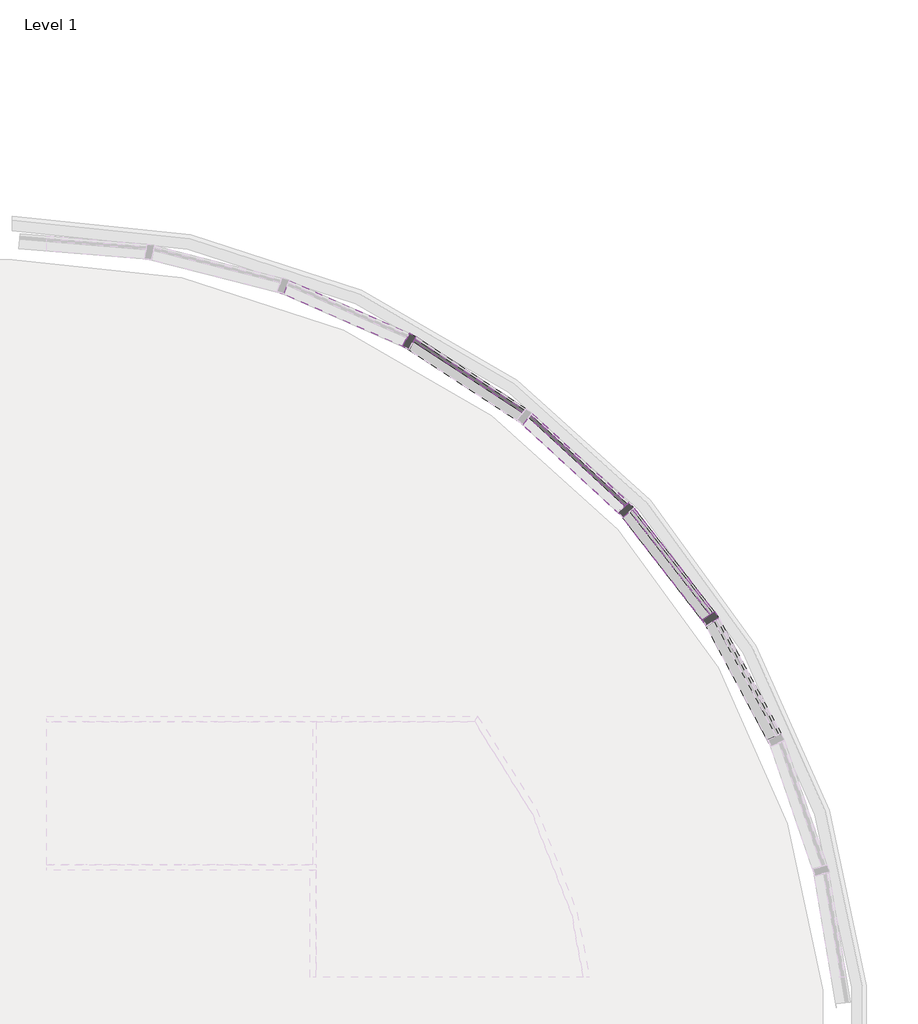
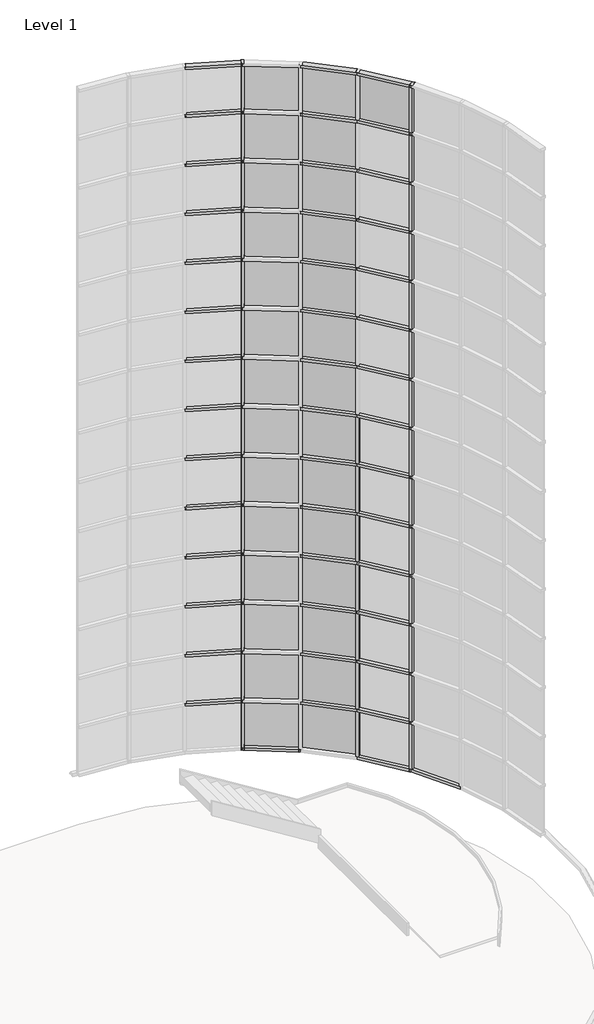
# One storey, part 13 of 20: 80 members, 29 plates.
"""IFC4 building model written with IfcOpenShell, lengths in millimetres."""

from ifc_helpers import new_model, si_unit, origin, place, context, project, spatial, transform, mapped, element, save
from components import member_68fe8548, member_f830fa99, member_935f61b8, system_panel_glazed_da602fa6, system_panel_glazed_77fd207e

model = new_model("IFC4")

# Units and contexts
model_context = context("Model", 3, world=origin())
ifc_project = project(units=[si_unit("LENGTHUNIT", "METRE", prefix="MILLI")], contexts=[model_context])

# Site, building, storey
site = spatial("IfcSite", under=ifc_project)
building = spatial("IfcBuilding", under=site)
storey = spatial("IfcBuildingStorey", under=building, Name="Level 1", Elevation=0.0)

# Members
placement = place(None, origin())
member_shape = member_68fe8548(model_context)
element("IfcMember", 1, ObjectType="Rectangular Mullion : 2.5\" x 5\" rectangular", at=placement, inside=storey, context=model_context, shape_type="MappedRepresentation", body=[
    mapped(member_shape, transform((21306.6406628, 3785.4957758, 17983.2), x_axis=(0.0, 0.0, 1.0), y_axis=(-0.40169542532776, -0.9157733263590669, 0.0), z_axis=(0.9157733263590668, -0.4016954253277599, 0.0))),
])
element("IfcMember", 2, ObjectType="Rectangular Mullion : 2.5\" x 5\" rectangular", at=placement, inside=storey, context=model_context, shape_type="MappedRepresentation", body=[
    mapped(member_shape, transform((23166.898542, 2350.7981932, 17983.2), x_axis=(0.0, 0.0, 1.0), y_axis=(-0.6772815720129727, -0.7357239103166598, 0.0), z_axis=(0.7357239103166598, -0.6772815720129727, 0.0))),
])
element("IfcMember", 3, ObjectType="Rectangular Mullion : 2.5\" x 5\" rectangular", at=placement, inside=storey, context=model_context, shape_type="MappedRepresentation", body=[
    mapped(member_shape, transform((23894.9537437, 1423.9011049, 17983.2), x_axis=(0.0, 0.0, 1.0), y_axis=(-0.7891405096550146, -0.6142127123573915, 0.0), z_axis=(0.6142127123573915, -0.7891405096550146, 0.0))),
])
element("IfcMember", 4, ObjectType="Rectangular Mullion : 2.5\" x 5\" rectangular", at=placement, inside=storey, context=model_context, shape_type="MappedRepresentation", body=[
    mapped(member_shape, transform((21362.2965016, 3755.376342, 1092.2), x_axis=(0.0, 0.0, -1.0), y_axis=(-0.5469481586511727, -0.8371664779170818, 0.0), z_axis=(-0.8371664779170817, 0.5469481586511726, 0.0))),
])
element("IfcMember", 5, ObjectType="Rectangular Mullion : 2.5\" x 5\" rectangular", at=placement, inside=storey, context=model_context, shape_type="MappedRepresentation", body=[
    mapped(member_shape, transform((23209.7590298, 2304.2392921, 1092.2), x_axis=(0.0, 0.0, -1.0), y_axis=(-0.789140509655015, -0.614212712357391, 0.0), z_axis=(-0.614212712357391, 0.789140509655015, 0.0))),
])
element("IfcMember", 6, ObjectType="Rectangular Mullion : 2.5\" x 5\" rectangular", at=placement, inside=storey, context=model_context, shape_type="MappedRepresentation", body=[
    mapped(member_shape, transform((23929.566327, 1370.9226021, 1092.2), x_axis=(0.0, 0.0, -1.0), y_axis=(-0.8794737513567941, -0.47594739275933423, 0.0), z_axis=(-0.47594739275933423, 0.8794737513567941, 0.0))),
])
member_2_shape = member_f830fa99(model_context)
element("IfcMember", 7, ObjectType="Rectangular Mullion : 2.5\" x 5\" rectangular", at=placement, inside=storey, context=model_context, shape_type="MappedRepresentation", body=[
    mapped(member_2_shape, transform((21306.6406628, 3785.4957758, 2298.7), x_axis=(0.0, 0.0, 1.0), y_axis=(-0.40169542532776, -0.9157733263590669, 0.0), z_axis=(0.9157733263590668, -0.4016954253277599, 0.0))),
])
element("IfcMember", 8, ObjectType="Rectangular Mullion : 2.5\" x 5\" rectangular", at=placement, inside=storey, context=model_context, shape_type="MappedRepresentation", body=[
    mapped(member_2_shape, transform((23166.898542, 2350.7981932, 2298.7), x_axis=(0.0, 0.0, 1.0), y_axis=(-0.6772815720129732, -0.7357239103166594, 0.0), z_axis=(0.7357239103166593, -0.6772815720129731, 0.0))),
])
element("IfcMember", 9, ObjectType="Rectangular Mullion : 2.5\" x 5\" rectangular", at=placement, inside=storey, context=model_context, shape_type="MappedRepresentation", body=[
    mapped(member_2_shape, transform((23894.9537437, 1423.9011049, 2298.7), x_axis=(0.0, 0.0, 1.0), y_axis=(-0.7891405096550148, -0.6142127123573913, 0.0), z_axis=(0.6142127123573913, -0.7891405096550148, 0.0))),
])
element("IfcMember", 10, ObjectType="Rectangular Mullion : 2.5\" x 5\" rectangular", at=placement, inside=storey, context=model_context, shape_type="MappedRepresentation", body=[
    mapped(member_2_shape, transform((21306.6406628, 3785.4957758, 3505.2), x_axis=(0.0, 0.0, 1.0), y_axis=(-0.40169542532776, -0.9157733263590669, 0.0), z_axis=(0.9157733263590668, -0.4016954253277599, 0.0))),
])
element("IfcMember", 11, ObjectType="Rectangular Mullion : 2.5\" x 5\" rectangular", at=placement, inside=storey, context=model_context, shape_type="MappedRepresentation", body=[
    mapped(member_2_shape, transform((23166.898542, 2350.7981932, 3505.2), x_axis=(0.0, 0.0, 1.0), y_axis=(-0.6772815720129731, -0.7357239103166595, 0.0), z_axis=(0.7357239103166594, -0.677281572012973, 0.0))),
])
element("IfcMember", 12, ObjectType="Rectangular Mullion : 2.5\" x 5\" rectangular", at=placement, inside=storey, context=model_context, shape_type="MappedRepresentation", body=[
    mapped(member_2_shape, transform((23894.9537437, 1423.9011049, 3505.2), x_axis=(0.0, 0.0, 1.0), y_axis=(-0.7891405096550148, -0.6142127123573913, 0.0), z_axis=(0.6142127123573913, -0.7891405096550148, 0.0))),
])
element("IfcMember", 13, ObjectType="Rectangular Mullion : 2.5\" x 5\" rectangular", at=placement, inside=storey, context=model_context, shape_type="MappedRepresentation", body=[
    mapped(member_2_shape, transform((21306.6406628, 3785.4957758, 4711.7), x_axis=(0.0, 0.0, 1.0), y_axis=(-0.40169542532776, -0.9157733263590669, 0.0), z_axis=(0.9157733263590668, -0.4016954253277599, 0.0))),
])
element("IfcMember", 14, ObjectType="Rectangular Mullion : 2.5\" x 5\" rectangular", at=placement, inside=storey, context=model_context, shape_type="MappedRepresentation", body=[
    mapped(member_2_shape, transform((23166.898542, 2350.7981932, 4711.7), x_axis=(0.0, 0.0, 1.0), y_axis=(-0.6772815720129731, -0.7357239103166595, 0.0), z_axis=(0.7357239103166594, -0.677281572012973, 0.0))),
])
element("IfcMember", 15, ObjectType="Rectangular Mullion : 2.5\" x 5\" rectangular", at=placement, inside=storey, context=model_context, shape_type="MappedRepresentation", body=[
    mapped(member_2_shape, transform((23894.9537437, 1423.9011049, 4711.7), x_axis=(0.0, 0.0, 1.0), y_axis=(-0.7891405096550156, -0.6142127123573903, 0.0), z_axis=(0.6142127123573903, -0.7891405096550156, 0.0))),
])
element("IfcMember", 16, ObjectType="Rectangular Mullion : 2.5\" x 5\" rectangular", at=placement, inside=storey, context=model_context, shape_type="MappedRepresentation", body=[
    mapped(member_2_shape, transform((21306.6406628, 3785.4957758, 5918.2), x_axis=(0.0, 0.0, 1.0), y_axis=(-0.40169542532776, -0.9157733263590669, 0.0), z_axis=(0.9157733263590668, -0.4016954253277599, 0.0))),
])
element("IfcMember", 17, ObjectType="Rectangular Mullion : 2.5\" x 5\" rectangular", at=placement, inside=storey, context=model_context, shape_type="MappedRepresentation", body=[
    mapped(member_2_shape, transform((23166.898542, 2350.7981932, 5918.2), x_axis=(0.0, 0.0, 1.0), y_axis=(-0.6772815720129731, -0.7357239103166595, 0.0), z_axis=(0.7357239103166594, -0.677281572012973, 0.0))),
])
element("IfcMember", 18, ObjectType="Rectangular Mullion : 2.5\" x 5\" rectangular", at=placement, inside=storey, context=model_context, shape_type="MappedRepresentation", body=[
    mapped(member_2_shape, transform((23894.9537437, 1423.9011049, 5918.2), x_axis=(0.0, 0.0, 1.0), y_axis=(-0.7891405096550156, -0.6142127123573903, 0.0), z_axis=(0.6142127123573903, -0.7891405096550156, 0.0))),
])
element("IfcMember", 19, ObjectType="Rectangular Mullion : 2.5\" x 5\" rectangular", at=placement, inside=storey, context=model_context, shape_type="MappedRepresentation", body=[
    mapped(member_2_shape, transform((21306.6406628, 3785.4957758, 7124.7), x_axis=(0.0, 0.0, 1.0), y_axis=(-0.40169542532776, -0.9157733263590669, 0.0), z_axis=(0.9157733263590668, -0.4016954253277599, 0.0))),
])
element("IfcMember", 20, ObjectType="Rectangular Mullion : 2.5\" x 5\" rectangular", at=placement, inside=storey, context=model_context, shape_type="MappedRepresentation", body=[
    mapped(member_2_shape, transform((23166.898542, 2350.7981932, 7124.7), x_axis=(0.0, 0.0, 1.0), y_axis=(-0.6772815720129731, -0.7357239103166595, 0.0), z_axis=(0.7357239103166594, -0.677281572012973, 0.0))),
])
element("IfcMember", 21, ObjectType="Rectangular Mullion : 2.5\" x 5\" rectangular", at=placement, inside=storey, context=model_context, shape_type="MappedRepresentation", body=[
    mapped(member_2_shape, transform((23894.9537437, 1423.9011049, 7124.7), x_axis=(0.0, 0.0, 1.0), y_axis=(-0.7891405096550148, -0.6142127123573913, 0.0), z_axis=(0.6142127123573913, -0.7891405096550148, 0.0))),
])
element("IfcMember", 22, ObjectType="Rectangular Mullion : 2.5\" x 5\" rectangular", at=placement, inside=storey, context=model_context, shape_type="MappedRepresentation", body=[
    mapped(member_2_shape, transform((21306.6406628, 3785.4957758, 8331.2), x_axis=(0.0, 0.0, 1.0), y_axis=(-0.40169542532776, -0.9157733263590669, 0.0), z_axis=(0.9157733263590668, -0.4016954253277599, 0.0))),
])
element("IfcMember", 23, ObjectType="Rectangular Mullion : 2.5\" x 5\" rectangular", at=placement, inside=storey, context=model_context, shape_type="MappedRepresentation", body=[
    mapped(member_2_shape, transform((23166.898542, 2350.7981932, 8331.2), x_axis=(0.0, 0.0, 1.0), y_axis=(-0.6772815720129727, -0.7357239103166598, 0.0), z_axis=(0.7357239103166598, -0.6772815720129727, 0.0))),
])
element("IfcMember", 24, ObjectType="Rectangular Mullion : 2.5\" x 5\" rectangular", at=placement, inside=storey, context=model_context, shape_type="MappedRepresentation", body=[
    mapped(member_2_shape, transform((23894.9537437, 1423.9011049, 8331.2), x_axis=(0.0, 0.0, 1.0), y_axis=(-0.7891405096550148, -0.6142127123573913, 0.0), z_axis=(0.6142127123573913, -0.7891405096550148, 0.0))),
])
element("IfcMember", 25, ObjectType="Rectangular Mullion : 2.5\" x 5\" rectangular", at=placement, inside=storey, context=model_context, shape_type="MappedRepresentation", body=[
    mapped(member_2_shape, transform((21306.6406628, 3785.4957758, 9537.7), x_axis=(0.0, 0.0, 1.0), y_axis=(-0.40169542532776, -0.9157733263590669, 0.0), z_axis=(0.9157733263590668, -0.4016954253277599, 0.0))),
])
element("IfcMember", 26, ObjectType="Rectangular Mullion : 2.5\" x 5\" rectangular", at=placement, inside=storey, context=model_context, shape_type="MappedRepresentation", body=[
    mapped(member_2_shape, transform((23166.898542, 2350.7981932, 9537.7), x_axis=(0.0, 0.0, 1.0), y_axis=(-0.6772815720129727, -0.7357239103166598, 0.0), z_axis=(0.7357239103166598, -0.6772815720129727, 0.0))),
])
element("IfcMember", 27, ObjectType="Rectangular Mullion : 2.5\" x 5\" rectangular", at=placement, inside=storey, context=model_context, shape_type="MappedRepresentation", body=[
    mapped(member_2_shape, transform((23894.9537437, 1423.9011049, 9537.7), x_axis=(0.0, 0.0, 1.0), y_axis=(-0.7891405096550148, -0.6142127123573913, 0.0), z_axis=(0.6142127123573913, -0.7891405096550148, 0.0))),
])
element("IfcMember", 28, ObjectType="Rectangular Mullion : 2.5\" x 5\" rectangular", at=placement, inside=storey, context=model_context, shape_type="MappedRepresentation", body=[
    mapped(member_2_shape, transform((21306.6406628, 3785.4957758, 10744.2), x_axis=(0.0, 0.0, 1.0), y_axis=(-0.40169542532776, -0.9157733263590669, 0.0), z_axis=(0.9157733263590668, -0.4016954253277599, 0.0))),
])
element("IfcMember", 29, ObjectType="Rectangular Mullion : 2.5\" x 5\" rectangular", at=placement, inside=storey, context=model_context, shape_type="MappedRepresentation", body=[
    mapped(member_2_shape, transform((23166.898542, 2350.7981932, 10744.2), x_axis=(0.0, 0.0, 1.0), y_axis=(-0.677281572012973, -0.7357239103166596, 0.0), z_axis=(0.7357239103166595, -0.6772815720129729, 0.0))),
])
element("IfcMember", 30, ObjectType="Rectangular Mullion : 2.5\" x 5\" rectangular", at=placement, inside=storey, context=model_context, shape_type="MappedRepresentation", body=[
    mapped(member_2_shape, transform((23894.9537437, 1423.9011049, 10744.2), x_axis=(0.0, 0.0, 1.0), y_axis=(-0.7891405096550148, -0.6142127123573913, 0.0), z_axis=(0.6142127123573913, -0.7891405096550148, 0.0))),
])
element("IfcMember", 31, ObjectType="Rectangular Mullion : 2.5\" x 5\" rectangular", at=placement, inside=storey, context=model_context, shape_type="MappedRepresentation", body=[
    mapped(member_2_shape, transform((21306.6406628, 3785.4957758, 11950.7), x_axis=(0.0, 0.0, 1.0), y_axis=(-0.40169542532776, -0.9157733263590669, 0.0), z_axis=(0.9157733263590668, -0.4016954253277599, 0.0))),
])
element("IfcMember", 32, ObjectType="Rectangular Mullion : 2.5\" x 5\" rectangular", at=placement, inside=storey, context=model_context, shape_type="MappedRepresentation", body=[
    mapped(member_2_shape, transform((23166.898542, 2350.7981932, 11950.7), x_axis=(0.0, 0.0, 1.0), y_axis=(-0.6772815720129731, -0.7357239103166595, 0.0), z_axis=(0.7357239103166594, -0.677281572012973, 0.0))),
])
element("IfcMember", 33, ObjectType="Rectangular Mullion : 2.5\" x 5\" rectangular", at=placement, inside=storey, context=model_context, shape_type="MappedRepresentation", body=[
    mapped(member_2_shape, transform((23894.9537437, 1423.9011049, 11950.7), x_axis=(0.0, 0.0, 1.0), y_axis=(-0.7891405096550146, -0.6142127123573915, 0.0), z_axis=(0.6142127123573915, -0.7891405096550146, 0.0))),
])
element("IfcMember", 34, ObjectType="Rectangular Mullion : 2.5\" x 5\" rectangular", at=placement, inside=storey, context=model_context, shape_type="MappedRepresentation", body=[
    mapped(member_2_shape, transform((21306.6406628, 3785.4957758, 13157.2), x_axis=(0.0, 0.0, 1.0), y_axis=(-0.40169542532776, -0.9157733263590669, 0.0), z_axis=(0.9157733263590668, -0.4016954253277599, 0.0))),
])
element("IfcMember", 35, ObjectType="Rectangular Mullion : 2.5\" x 5\" rectangular", at=placement, inside=storey, context=model_context, shape_type="MappedRepresentation", body=[
    mapped(member_2_shape, transform((23166.898542, 2350.7981932, 13157.2), x_axis=(0.0, 0.0, 1.0), y_axis=(-0.6772815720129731, -0.7357239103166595, 0.0), z_axis=(0.7357239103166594, -0.677281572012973, 0.0))),
])
element("IfcMember", 36, ObjectType="Rectangular Mullion : 2.5\" x 5\" rectangular", at=placement, inside=storey, context=model_context, shape_type="MappedRepresentation", body=[
    mapped(member_2_shape, transform((23894.9537437, 1423.9011049, 13157.2), x_axis=(0.0, 0.0, 1.0), y_axis=(-0.7891405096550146, -0.6142127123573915, 0.0), z_axis=(0.6142127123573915, -0.7891405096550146, 0.0))),
])
element("IfcMember", 37, ObjectType="Rectangular Mullion : 2.5\" x 5\" rectangular", at=placement, inside=storey, context=model_context, shape_type="MappedRepresentation", body=[
    mapped(member_2_shape, transform((21306.6406628, 3785.4957758, 14363.7), x_axis=(0.0, 0.0, 1.0), y_axis=(-0.40169542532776, -0.9157733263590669, 0.0), z_axis=(0.9157733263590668, -0.4016954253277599, 0.0))),
])
element("IfcMember", 38, ObjectType="Rectangular Mullion : 2.5\" x 5\" rectangular", at=placement, inside=storey, context=model_context, shape_type="MappedRepresentation", body=[
    mapped(member_2_shape, transform((23166.898542, 2350.7981932, 14363.7), x_axis=(0.0, 0.0, 1.0), y_axis=(-0.6772815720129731, -0.7357239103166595, 0.0), z_axis=(0.7357239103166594, -0.677281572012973, 0.0))),
])
element("IfcMember", 39, ObjectType="Rectangular Mullion : 2.5\" x 5\" rectangular", at=placement, inside=storey, context=model_context, shape_type="MappedRepresentation", body=[
    mapped(member_2_shape, transform((23894.9537437, 1423.9011049, 14363.7), x_axis=(0.0, 0.0, 1.0), y_axis=(-0.7891405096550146, -0.6142127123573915, 0.0), z_axis=(0.6142127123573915, -0.7891405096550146, 0.0))),
])
element("IfcMember", 40, ObjectType="Rectangular Mullion : 2.5\" x 5\" rectangular", at=placement, inside=storey, context=model_context, shape_type="MappedRepresentation", body=[
    mapped(member_2_shape, transform((21306.6406628, 3785.4957758, 15570.2), x_axis=(0.0, 0.0, 1.0), y_axis=(-0.40169542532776, -0.9157733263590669, 0.0), z_axis=(0.9157733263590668, -0.4016954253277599, 0.0))),
])
element("IfcMember", 41, ObjectType="Rectangular Mullion : 2.5\" x 5\" rectangular", at=placement, inside=storey, context=model_context, shape_type="MappedRepresentation", body=[
    mapped(member_2_shape, transform((23166.898542, 2350.7981932, 15570.2), x_axis=(0.0, 0.0, 1.0), y_axis=(-0.6772815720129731, -0.7357239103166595, 0.0), z_axis=(0.7357239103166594, -0.677281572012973, 0.0))),
])
element("IfcMember", 42, ObjectType="Rectangular Mullion : 2.5\" x 5\" rectangular", at=placement, inside=storey, context=model_context, shape_type="MappedRepresentation", body=[
    mapped(member_2_shape, transform((23894.9537437, 1423.9011049, 15570.2), x_axis=(0.0, 0.0, 1.0), y_axis=(-0.7891405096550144, -0.6142127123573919, 0.0), z_axis=(0.6142127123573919, -0.7891405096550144, 0.0))),
])
element("IfcMember", 43, ObjectType="Rectangular Mullion : 2.5\" x 5\" rectangular", at=placement, inside=storey, context=model_context, shape_type="MappedRepresentation", body=[
    mapped(member_2_shape, transform((21306.6406628, 3785.4957758, 16776.7), x_axis=(0.0, 0.0, 1.0), y_axis=(-0.40169542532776, -0.9157733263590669, 0.0), z_axis=(0.9157733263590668, -0.4016954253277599, 0.0))),
])
element("IfcMember", 44, ObjectType="Rectangular Mullion : 2.5\" x 5\" rectangular", at=placement, inside=storey, context=model_context, shape_type="MappedRepresentation", body=[
    mapped(member_2_shape, transform((23166.898542, 2350.7981932, 16776.7), x_axis=(0.0, 0.0, 1.0), y_axis=(-0.6772815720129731, -0.7357239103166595, 0.0), z_axis=(0.7357239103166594, -0.677281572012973, 0.0))),
])
element("IfcMember", 45, ObjectType="Rectangular Mullion : 2.5\" x 5\" rectangular", at=placement, inside=storey, context=model_context, shape_type="MappedRepresentation", body=[
    mapped(member_2_shape, transform((23894.9537437, 1423.9011049, 16776.7), x_axis=(0.0, 0.0, 1.0), y_axis=(-0.7891405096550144, -0.6142127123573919, 0.0), z_axis=(0.6142127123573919, -0.7891405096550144, 0.0))),
])
member_3_shape = member_935f61b8(model_context)
element("IfcMember", 46, ObjectType="Rectangular Mullion : 2.5\" x 5\" rectangular", at=placement, inside=storey, context=model_context, shape_type="MappedRepresentation", body=[
    mapped(member_3_shape, transform((21335.7164659, 3772.741946, 1092.2), x_axis=(0.8794737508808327, -0.4759473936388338, 0.0), y_axis=(-0.4759473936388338, -0.8794737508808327, 0.0), z_axis=(0.0, 0.0, -1.0))),
])
element("IfcMember", 47, ObjectType="Rectangular Mullion : 2.5\" x 5\" rectangular", at=placement, inside=storey, context=model_context, shape_type="MappedRepresentation", body=[
    mapped(member_3_shape, transform((23190.2577761, 2329.2945033, 1092.2), x_axis=(0.6772815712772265, -0.7357239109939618, 0.0), y_axis=(-0.7357239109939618, -0.6772815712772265, 0.0), z_axis=(0.0, 0.0, -1.0))),
])
element("IfcMember", 48, ObjectType="Rectangular Mullion : 2.5\" x 5\" rectangular", at=placement, inside=storey, context=model_context, shape_type="MappedRepresentation", body=[
    mapped(member_3_shape, transform((23914.4549973, 1398.8458937, 1092.2), x_axis=(0.5469481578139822, -0.8371664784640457, 0.0), y_axis=(-0.8371664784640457, -0.5469481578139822, 0.0), z_axis=(0.0, 0.0, -1.0))),
])
element("IfcMember", 49, ObjectType="Rectangular Mullion : 2.5\" x 5\" rectangular", at=placement, inside=storey, context=model_context, shape_type="MappedRepresentation", body=[
    mapped(member_3_shape, transform((21335.7164659, 3772.741946, 2298.7), x_axis=(0.8794737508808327, -0.4759473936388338, 0.0), y_axis=(-0.4759473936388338, -0.8794737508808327, 0.0), z_axis=(0.0, 0.0, -1.0))),
])
element("IfcMember", 50, ObjectType="Rectangular Mullion : 2.5\" x 5\" rectangular", at=placement, inside=storey, context=model_context, shape_type="MappedRepresentation", body=[
    mapped(member_3_shape, transform((23190.2577761, 2329.2945033, 2298.7), x_axis=(0.6772815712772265, -0.7357239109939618, 0.0), y_axis=(-0.7357239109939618, -0.6772815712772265, 0.0), z_axis=(0.0, 0.0, -1.0))),
])
element("IfcMember", 51, ObjectType="Rectangular Mullion : 2.5\" x 5\" rectangular", at=placement, inside=storey, context=model_context, shape_type="MappedRepresentation", body=[
    mapped(member_3_shape, transform((23914.4549973, 1398.8458937, 2298.7), x_axis=(0.5469481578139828, -0.8371664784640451, 0.0), y_axis=(-0.8371664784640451, -0.5469481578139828, 0.0), z_axis=(0.0, 0.0, -1.0))),
])
element("IfcMember", 52, ObjectType="Rectangular Mullion : 2.5\" x 5\" rectangular", at=placement, inside=storey, context=model_context, shape_type="MappedRepresentation", body=[
    mapped(member_3_shape, transform((21335.7164659, 3772.741946, 3505.2), x_axis=(0.8794737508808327, -0.4759473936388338, 0.0), y_axis=(-0.4759473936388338, -0.8794737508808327, 0.0), z_axis=(0.0, 0.0, -1.0))),
])
element("IfcMember", 53, ObjectType="Rectangular Mullion : 2.5\" x 5\" rectangular", at=placement, inside=storey, context=model_context, shape_type="MappedRepresentation", body=[
    mapped(member_3_shape, transform((23190.2577761, 2329.2945033, 3505.2), x_axis=(0.6772815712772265, -0.7357239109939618, 0.0), y_axis=(-0.7357239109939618, -0.6772815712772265, 0.0), z_axis=(0.0, 0.0, -1.0))),
])
element("IfcMember", 54, ObjectType="Rectangular Mullion : 2.5\" x 5\" rectangular", at=placement, inside=storey, context=model_context, shape_type="MappedRepresentation", body=[
    mapped(member_3_shape, transform((23914.4549973, 1398.8458937, 3505.2), x_axis=(0.5469481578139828, -0.8371664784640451, 0.0), y_axis=(-0.8371664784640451, -0.5469481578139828, 0.0), z_axis=(0.0, 0.0, -1.0))),
])
element("IfcMember", 55, ObjectType="Rectangular Mullion : 2.5\" x 5\" rectangular", at=placement, inside=storey, context=model_context, shape_type="MappedRepresentation", body=[
    mapped(member_3_shape, transform((21335.7164659, 3772.741946, 4711.7), x_axis=(0.8794737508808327, -0.4759473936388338, 0.0), y_axis=(-0.4759473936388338, -0.8794737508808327, 0.0), z_axis=(0.0, 0.0, -1.0))),
])
element("IfcMember", 56, ObjectType="Rectangular Mullion : 2.5\" x 5\" rectangular", at=placement, inside=storey, context=model_context, shape_type="MappedRepresentation", body=[
    mapped(member_3_shape, transform((23190.2577761, 2329.2945033, 4711.7), x_axis=(0.6772815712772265, -0.7357239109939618, 0.0), y_axis=(-0.7357239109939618, -0.6772815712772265, 0.0), z_axis=(0.0, 0.0, -1.0))),
])
element("IfcMember", 57, ObjectType="Rectangular Mullion : 2.5\" x 5\" rectangular", at=placement, inside=storey, context=model_context, shape_type="MappedRepresentation", body=[
    mapped(member_3_shape, transform((23914.4549973, 1398.8458937, 4711.7), x_axis=(0.5469481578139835, -0.8371664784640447, 0.0), y_axis=(-0.8371664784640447, -0.5469481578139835, 0.0), z_axis=(0.0, 0.0, -1.0))),
])
element("IfcMember", 58, ObjectType="Rectangular Mullion : 2.5\" x 5\" rectangular", at=placement, inside=storey, context=model_context, shape_type="MappedRepresentation", body=[
    mapped(member_3_shape, transform((21335.7164659, 3772.741946, 5918.2), x_axis=(0.8794737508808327, -0.4759473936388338, 0.0), y_axis=(-0.4759473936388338, -0.8794737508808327, 0.0), z_axis=(0.0, 0.0, -1.0))),
])
element("IfcMember", 59, ObjectType="Rectangular Mullion : 2.5\" x 5\" rectangular", at=placement, inside=storey, context=model_context, shape_type="MappedRepresentation", body=[
    mapped(member_3_shape, transform((23190.2577761, 2329.2945033, 5918.2), x_axis=(0.6772815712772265, -0.7357239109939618, 0.0), y_axis=(-0.7357239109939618, -0.6772815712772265, 0.0), z_axis=(0.0, 0.0, -1.0))),
])
element("IfcMember", 60, ObjectType="Rectangular Mullion : 2.5\" x 5\" rectangular", at=placement, inside=storey, context=model_context, shape_type="MappedRepresentation", body=[
    mapped(member_3_shape, transform((23914.4549973, 1398.8458937, 5918.2), x_axis=(0.5469481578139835, -0.8371664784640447, 0.0), y_axis=(-0.8371664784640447, -0.5469481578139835, 0.0), z_axis=(0.0, 0.0, -1.0))),
])
element("IfcMember", 61, ObjectType="Rectangular Mullion : 2.5\" x 5\" rectangular", at=placement, inside=storey, context=model_context, shape_type="MappedRepresentation", body=[
    mapped(member_3_shape, transform((21335.7164659, 3772.741946, 7124.7), x_axis=(0.8794737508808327, -0.4759473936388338, 0.0), y_axis=(-0.4759473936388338, -0.8794737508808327, 0.0), z_axis=(0.0, 0.0, -1.0))),
])
element("IfcMember", 62, ObjectType="Rectangular Mullion : 2.5\" x 5\" rectangular", at=placement, inside=storey, context=model_context, shape_type="MappedRepresentation", body=[
    mapped(member_3_shape, transform((23190.2577761, 2329.2945033, 7124.7), x_axis=(0.6772815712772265, -0.7357239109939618, 0.0), y_axis=(-0.7357239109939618, -0.6772815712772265, 0.0), z_axis=(0.0, 0.0, -1.0))),
])
element("IfcMember", 63, ObjectType="Rectangular Mullion : 2.5\" x 5\" rectangular", at=placement, inside=storey, context=model_context, shape_type="MappedRepresentation", body=[
    mapped(member_3_shape, transform((23914.4549973, 1398.8458937, 7124.7), x_axis=(0.5469481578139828, -0.8371664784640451, 0.0), y_axis=(-0.8371664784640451, -0.5469481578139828, 0.0), z_axis=(0.0, 0.0, -1.0))),
])
element("IfcMember", 64, ObjectType="Rectangular Mullion : 2.5\" x 5\" rectangular", at=placement, inside=storey, context=model_context, shape_type="MappedRepresentation", body=[
    mapped(member_3_shape, transform((21335.7164659, 3772.741946, 8331.2), x_axis=(0.8794737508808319, -0.4759473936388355, 0.0), y_axis=(-0.4759473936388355, -0.8794737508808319, 0.0), z_axis=(0.0, 0.0, -1.0))),
])
element("IfcMember", 65, ObjectType="Rectangular Mullion : 2.5\" x 5\" rectangular", at=placement, inside=storey, context=model_context, shape_type="MappedRepresentation", body=[
    mapped(member_3_shape, transform((23190.2577761, 2329.2945033, 8331.2), x_axis=(0.6772815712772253, -0.7357239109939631, 0.0), y_axis=(-0.7357239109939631, -0.6772815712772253, 0.0), z_axis=(0.0, 0.0, -1.0))),
])
element("IfcMember", 66, ObjectType="Rectangular Mullion : 2.5\" x 5\" rectangular", at=placement, inside=storey, context=model_context, shape_type="MappedRepresentation", body=[
    mapped(member_3_shape, transform((23914.4549973, 1398.8458937, 8331.2), x_axis=(0.5469481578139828, -0.8371664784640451, 0.0), y_axis=(-0.8371664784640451, -0.5469481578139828, 0.0), z_axis=(0.0, 0.0, -1.0))),
])
element("IfcMember", 67, ObjectType="Rectangular Mullion : 2.5\" x 5\" rectangular", at=placement, inside=storey, context=model_context, shape_type="MappedRepresentation", body=[
    mapped(member_3_shape, transform((21335.7164659, 3772.741946, 9537.7), x_axis=(0.8794737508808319, -0.4759473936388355, 0.0), y_axis=(-0.4759473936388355, -0.8794737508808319, 0.0), z_axis=(0.0, 0.0, -1.0))),
])
element("IfcMember", 68, ObjectType="Rectangular Mullion : 2.5\" x 5\" rectangular", at=placement, inside=storey, context=model_context, shape_type="MappedRepresentation", body=[
    mapped(member_3_shape, transform((23914.4549973, 1398.8458937, 9537.7), x_axis=(0.5469481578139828, -0.8371664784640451, 0.0), y_axis=(-0.8371664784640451, -0.5469481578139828, 0.0), z_axis=(0.0, 0.0, -1.0))),
])
element("IfcMember", 69, ObjectType="Rectangular Mullion : 2.5\" x 5\" rectangular", at=placement, inside=storey, context=model_context, shape_type="MappedRepresentation", body=[
    mapped(member_3_shape, transform((21335.7164659, 3772.741946, 10744.2), x_axis=(0.8794737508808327, -0.4759473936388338, 0.0), y_axis=(-0.4759473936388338, -0.8794737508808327, 0.0), z_axis=(0.0, 0.0, -1.0))),
])
element("IfcMember", 70, ObjectType="Rectangular Mullion : 2.5\" x 5\" rectangular", at=placement, inside=storey, context=model_context, shape_type="MappedRepresentation", body=[
    mapped(member_3_shape, transform((23914.4549973, 1398.8458937, 10744.2), x_axis=(0.5469481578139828, -0.8371664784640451, 0.0), y_axis=(-0.8371664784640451, -0.5469481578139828, 0.0), z_axis=(0.0, 0.0, -1.0))),
])
element("IfcMember", 71, ObjectType="Rectangular Mullion : 2.5\" x 5\" rectangular", at=placement, inside=storey, context=model_context, shape_type="MappedRepresentation", body=[
    mapped(member_3_shape, transform((21335.7164659, 3772.741946, 11950.7), x_axis=(0.8794737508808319, -0.4759473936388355, 0.0), y_axis=(-0.4759473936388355, -0.8794737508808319, 0.0), z_axis=(0.0, 0.0, -1.0))),
])
element("IfcMember", 72, ObjectType="Rectangular Mullion : 2.5\" x 5\" rectangular", at=placement, inside=storey, context=model_context, shape_type="MappedRepresentation", body=[
    mapped(member_3_shape, transform((23914.4549973, 1398.8458937, 11950.7), x_axis=(0.5469481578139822, -0.8371664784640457, 0.0), y_axis=(-0.8371664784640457, -0.5469481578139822, 0.0), z_axis=(0.0, 0.0, -1.0))),
])
element("IfcMember", 73, ObjectType="Rectangular Mullion : 2.5\" x 5\" rectangular", at=placement, inside=storey, context=model_context, shape_type="MappedRepresentation", body=[
    mapped(member_3_shape, transform((21335.7164659, 3772.741946, 13157.2), x_axis=(0.8794737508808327, -0.4759473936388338, 0.0), y_axis=(-0.4759473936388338, -0.8794737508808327, 0.0), z_axis=(0.0, 0.0, -1.0))),
])
element("IfcMember", 74, ObjectType="Rectangular Mullion : 2.5\" x 5\" rectangular", at=placement, inside=storey, context=model_context, shape_type="MappedRepresentation", body=[
    mapped(member_3_shape, transform((23914.4549973, 1398.8458937, 13157.2), x_axis=(0.5469481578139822, -0.8371664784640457, 0.0), y_axis=(-0.8371664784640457, -0.5469481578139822, 0.0), z_axis=(0.0, 0.0, -1.0))),
])
element("IfcMember", 75, ObjectType="Rectangular Mullion : 2.5\" x 5\" rectangular", at=placement, inside=storey, context=model_context, shape_type="MappedRepresentation", body=[
    mapped(member_3_shape, transform((21335.7164659, 3772.741946, 14363.7), x_axis=(0.8794737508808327, -0.4759473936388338, 0.0), y_axis=(-0.4759473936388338, -0.8794737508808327, 0.0), z_axis=(0.0, 0.0, -1.0))),
])
element("IfcMember", 76, ObjectType="Rectangular Mullion : 2.5\" x 5\" rectangular", at=placement, inside=storey, context=model_context, shape_type="MappedRepresentation", body=[
    mapped(member_3_shape, transform((23914.4549973, 1398.8458937, 14363.7), x_axis=(0.5469481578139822, -0.8371664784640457, 0.0), y_axis=(-0.8371664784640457, -0.5469481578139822, 0.0), z_axis=(0.0, 0.0, -1.0))),
])
element("IfcMember", 77, ObjectType="Rectangular Mullion : 2.5\" x 5\" rectangular", at=placement, inside=storey, context=model_context, shape_type="MappedRepresentation", body=[
    mapped(member_3_shape, transform((21335.7164659, 3772.741946, 15570.2), x_axis=(0.8794737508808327, -0.4759473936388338, 0.0), y_axis=(-0.4759473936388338, -0.8794737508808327, 0.0), z_axis=(0.0, 0.0, -1.0))),
])
element("IfcMember", 78, ObjectType="Rectangular Mullion : 2.5\" x 5\" rectangular", at=placement, inside=storey, context=model_context, shape_type="MappedRepresentation", body=[
    mapped(member_3_shape, transform((23914.4549973, 1398.8458937, 15570.2), x_axis=(0.5469481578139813, -0.8371664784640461, 0.0), y_axis=(-0.8371664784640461, -0.5469481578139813, 0.0), z_axis=(0.0, 0.0, -1.0))),
])
element("IfcMember", 79, ObjectType="Rectangular Mullion : 2.5\" x 5\" rectangular", at=placement, inside=storey, context=model_context, shape_type="MappedRepresentation", body=[
    mapped(member_3_shape, transform((21335.7164659, 3772.741946, 16776.7), x_axis=(0.8794737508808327, -0.4759473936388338, 0.0), y_axis=(-0.4759473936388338, -0.8794737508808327, 0.0), z_axis=(0.0, 0.0, -1.0))),
])
element("IfcMember", 80, ObjectType="Rectangular Mullion : 2.5\" x 5\" rectangular", at=placement, inside=storey, context=model_context, shape_type="MappedRepresentation", body=[
    mapped(member_3_shape, transform((23914.4549973, 1398.8458937, 16776.7), x_axis=(0.5469481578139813, -0.8371664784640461, 0.0), y_axis=(-0.8371664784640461, -0.5469481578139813, 0.0), z_axis=(0.0, 0.0, -1.0))),
])

# Plates
system_panel_glazed_shape = system_panel_glazed_da602fa6(model_context)
element("IfcPlate", 81, ObjectType="System Panel : Glazed", at=placement, inside=storey, context=model_context, shape_type="MappedRepresentation", body=[
    mapped(system_panel_glazed_shape, transform((21829.2536598, 3450.2980039, 1155.7), x_axis=(0.8371664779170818, -0.5469481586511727, 0.0), y_axis=(0.5469481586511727, 0.8371664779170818, 0.0), z_axis=(0.0, 0.0, 1.0))),
])
element("IfcPlate", 82, ObjectType="System Panel : Glazed", at=placement, inside=storey, context=model_context, shape_type="MappedRepresentation", body=[
    mapped(system_panel_glazed_shape, transform((22756.5243149, 2728.5742825, 1155.7), x_axis=(0.7357239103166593, -0.6772815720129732, 0.0), y_axis=(0.6772815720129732, 0.7357239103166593, 0.0), z_axis=(0.0, 0.0, 1.0))),
])
element("IfcPlate", 83, ObjectType="System Panel : Glazed", at=placement, inside=storey, context=model_context, shape_type="MappedRepresentation", body=[
    mapped(system_panel_glazed_shape, transform((21829.2536598, 3450.2980039, 16808.45), x_axis=(0.8371664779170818, -0.5469481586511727, 0.0), y_axis=(0.5469481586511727, 0.8371664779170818, 0.0), z_axis=(0.0, 0.0, 1.0))),
])
element("IfcPlate", 84, ObjectType="System Panel : Glazed", at=placement, inside=storey, context=model_context, shape_type="MappedRepresentation", body=[
    mapped(system_panel_glazed_shape, transform((22756.5243149, 2728.5742825, 16808.45), x_axis=(0.7357239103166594, -0.6772815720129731, 0.0), y_axis=(0.6772815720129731, 0.7357239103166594, 0.0), z_axis=(0.0, 0.0, 1.0))),
])
element("IfcPlate", 85, ObjectType="System Panel : Glazed", at=placement, inside=storey, context=model_context, shape_type="MappedRepresentation", body=[
    mapped(system_panel_glazed_shape, transform((23552.3563867, 1864.0701985, 16808.45), x_axis=(0.614212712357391, -0.789140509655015, 0.0), y_axis=(0.789140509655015, 0.614212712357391, 0.0), z_axis=(0.0, 0.0, 1.0))),
])
system_panel_glazed_2_shape = system_panel_glazed_77fd207e(model_context)
element("IfcPlate", 86, ObjectType="System Panel : Glazed", at=placement, inside=storey, context=model_context, shape_type="MappedRepresentation", body=[
    mapped(system_panel_glazed_2_shape, transform((21829.2536598, 3450.2980039, 2330.45), x_axis=(0.8371664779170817, -0.5469481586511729, 0.0), y_axis=(0.5469481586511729, 0.8371664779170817, 0.0), z_axis=(0.0, 0.0, 1.0))),
])
element("IfcPlate", 87, ObjectType="System Panel : Glazed", at=placement, inside=storey, context=model_context, shape_type="MappedRepresentation", body=[
    mapped(system_panel_glazed_2_shape, transform((22756.5243149, 2728.5742825, 2330.45), x_axis=(0.7357239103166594, -0.6772815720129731, 0.0), y_axis=(0.6772815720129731, 0.7357239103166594, 0.0), z_axis=(0.0, 0.0, 1.0))),
])
element("IfcPlate", 88, ObjectType="System Panel : Glazed", at=placement, inside=storey, context=model_context, shape_type="MappedRepresentation", body=[
    mapped(system_panel_glazed_2_shape, transform((21829.2536598, 3450.2980039, 3536.95), x_axis=(0.8371664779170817, -0.5469481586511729, 0.0), y_axis=(0.5469481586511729, 0.8371664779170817, 0.0), z_axis=(0.0, 0.0, 1.0))),
])
element("IfcPlate", 89, ObjectType="System Panel : Glazed", at=placement, inside=storey, context=model_context, shape_type="MappedRepresentation", body=[
    mapped(system_panel_glazed_2_shape, transform((22756.5243149, 2728.5742825, 3536.95), x_axis=(0.7357239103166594, -0.6772815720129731, 0.0), y_axis=(0.6772815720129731, 0.7357239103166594, 0.0), z_axis=(0.0, 0.0, 1.0))),
])
element("IfcPlate", 90, ObjectType="System Panel : Glazed", at=placement, inside=storey, context=model_context, shape_type="MappedRepresentation", body=[
    mapped(system_panel_glazed_2_shape, transform((21829.2536598, 3450.2980039, 4743.45), x_axis=(0.8371664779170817, -0.5469481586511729, 0.0), y_axis=(0.5469481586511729, 0.8371664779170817, 0.0), z_axis=(0.0, 0.0, 1.0))),
])
element("IfcPlate", 91, ObjectType="System Panel : Glazed", at=placement, inside=storey, context=model_context, shape_type="MappedRepresentation", body=[
    mapped(system_panel_glazed_2_shape, transform((22756.5243149, 2728.5742825, 4743.45), x_axis=(0.7357239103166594, -0.6772815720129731, 0.0), y_axis=(0.6772815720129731, 0.7357239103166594, 0.0), z_axis=(0.0, 0.0, 1.0))),
])
element("IfcPlate", 92, ObjectType="System Panel : Glazed", at=placement, inside=storey, context=model_context, shape_type="MappedRepresentation", body=[
    mapped(system_panel_glazed_2_shape, transform((21829.2536598, 3450.2980039, 5949.95), x_axis=(0.8371664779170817, -0.5469481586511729, 0.0), y_axis=(0.5469481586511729, 0.8371664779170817, 0.0), z_axis=(0.0, 0.0, 1.0))),
])
element("IfcPlate", 93, ObjectType="System Panel : Glazed", at=placement, inside=storey, context=model_context, shape_type="MappedRepresentation", body=[
    mapped(system_panel_glazed_2_shape, transform((22756.5243149, 2728.5742825, 5949.95), x_axis=(0.7357239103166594, -0.6772815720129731, 0.0), y_axis=(0.6772815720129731, 0.7357239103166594, 0.0), z_axis=(0.0, 0.0, 1.0))),
])
element("IfcPlate", 94, ObjectType="System Panel : Glazed", at=placement, inside=storey, context=model_context, shape_type="MappedRepresentation", body=[
    mapped(system_panel_glazed_2_shape, transform((21829.2536598, 3450.2980039, 7156.45), x_axis=(0.8371664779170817, -0.5469481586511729, 0.0), y_axis=(0.5469481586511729, 0.8371664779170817, 0.0), z_axis=(0.0, 0.0, 1.0))),
])
element("IfcPlate", 95, ObjectType="System Panel : Glazed", at=placement, inside=storey, context=model_context, shape_type="MappedRepresentation", body=[
    mapped(system_panel_glazed_2_shape, transform((22756.5243149, 2728.5742825, 7156.45), x_axis=(0.7357239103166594, -0.6772815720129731, 0.0), y_axis=(0.6772815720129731, 0.7357239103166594, 0.0), z_axis=(0.0, 0.0, 1.0))),
])
element("IfcPlate", 96, ObjectType="System Panel : Glazed", at=placement, inside=storey, context=model_context, shape_type="MappedRepresentation", body=[
    mapped(system_panel_glazed_2_shape, transform((21829.2536598, 3450.2980039, 8362.95), x_axis=(0.8371664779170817, -0.5469481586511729, 0.0), y_axis=(0.5469481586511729, 0.8371664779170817, 0.0), z_axis=(0.0, 0.0, 1.0))),
])
element("IfcPlate", 97, ObjectType="System Panel : Glazed", at=placement, inside=storey, context=model_context, shape_type="MappedRepresentation", body=[
    mapped(system_panel_glazed_2_shape, transform((22756.5243149, 2728.5742825, 8362.95), x_axis=(0.7357239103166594, -0.6772815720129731, 0.0), y_axis=(0.6772815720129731, 0.7357239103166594, 0.0), z_axis=(0.0, 0.0, 1.0))),
])
element("IfcPlate", 98, ObjectType="System Panel : Glazed", at=placement, inside=storey, context=model_context, shape_type="MappedRepresentation", body=[
    mapped(system_panel_glazed_2_shape, transform((21829.2536598, 3450.2980039, 9569.45), x_axis=(0.8371664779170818, -0.5469481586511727, 0.0), y_axis=(0.5469481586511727, 0.8371664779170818, 0.0), z_axis=(0.0, 0.0, 1.0))),
])
element("IfcPlate", 99, ObjectType="System Panel : Glazed", at=placement, inside=storey, context=model_context, shape_type="MappedRepresentation", body=[
    mapped(system_panel_glazed_2_shape, transform((22756.5243149, 2728.5742825, 9569.45), x_axis=(0.7357239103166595, -0.677281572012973, 0.0), y_axis=(0.677281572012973, 0.7357239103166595, 0.0), z_axis=(0.0, 0.0, 1.0))),
])
element("IfcPlate", 100, ObjectType="System Panel : Glazed", at=placement, inside=storey, context=model_context, shape_type="MappedRepresentation", body=[
    mapped(system_panel_glazed_2_shape, transform((21829.2536598, 3450.2980039, 10775.95), x_axis=(0.8371664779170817, -0.5469481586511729, 0.0), y_axis=(0.5469481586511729, 0.8371664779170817, 0.0), z_axis=(0.0, 0.0, 1.0))),
])
element("IfcPlate", 101, ObjectType="System Panel : Glazed", at=placement, inside=storey, context=model_context, shape_type="MappedRepresentation", body=[
    mapped(system_panel_glazed_2_shape, transform((22756.5243149, 2728.5742825, 10775.95), x_axis=(0.7357239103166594, -0.6772815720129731, 0.0), y_axis=(0.6772815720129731, 0.7357239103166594, 0.0), z_axis=(0.0, 0.0, 1.0))),
])
element("IfcPlate", 102, ObjectType="System Panel : Glazed", at=placement, inside=storey, context=model_context, shape_type="MappedRepresentation", body=[
    mapped(system_panel_glazed_2_shape, transform((21829.2536598, 3450.2980039, 11982.45), x_axis=(0.8371664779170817, -0.5469481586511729, 0.0), y_axis=(0.5469481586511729, 0.8371664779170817, 0.0), z_axis=(0.0, 0.0, 1.0))),
])
element("IfcPlate", 103, ObjectType="System Panel : Glazed", at=placement, inside=storey, context=model_context, shape_type="MappedRepresentation", body=[
    mapped(system_panel_glazed_2_shape, transform((22756.5243149, 2728.5742825, 11982.45), x_axis=(0.7357239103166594, -0.6772815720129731, 0.0), y_axis=(0.6772815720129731, 0.7357239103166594, 0.0), z_axis=(0.0, 0.0, 1.0))),
])
element("IfcPlate", 104, ObjectType="System Panel : Glazed", at=placement, inside=storey, context=model_context, shape_type="MappedRepresentation", body=[
    mapped(system_panel_glazed_2_shape, transform((21829.2536598, 3450.2980039, 13188.95), x_axis=(0.8371664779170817, -0.5469481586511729, 0.0), y_axis=(0.5469481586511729, 0.8371664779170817, 0.0), z_axis=(0.0, 0.0, 1.0))),
])
element("IfcPlate", 105, ObjectType="System Panel : Glazed", at=placement, inside=storey, context=model_context, shape_type="MappedRepresentation", body=[
    mapped(system_panel_glazed_2_shape, transform((22756.5243149, 2728.5742825, 13188.95), x_axis=(0.7357239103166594, -0.6772815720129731, 0.0), y_axis=(0.6772815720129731, 0.7357239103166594, 0.0), z_axis=(0.0, 0.0, 1.0))),
])
element("IfcPlate", 106, ObjectType="System Panel : Glazed", at=placement, inside=storey, context=model_context, shape_type="MappedRepresentation", body=[
    mapped(system_panel_glazed_2_shape, transform((21829.2536598, 3450.2980039, 14395.45), x_axis=(0.8371664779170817, -0.5469481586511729, 0.0), y_axis=(0.5469481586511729, 0.8371664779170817, 0.0), z_axis=(0.0, 0.0, 1.0))),
])
element("IfcPlate", 107, ObjectType="System Panel : Glazed", at=placement, inside=storey, context=model_context, shape_type="MappedRepresentation", body=[
    mapped(system_panel_glazed_2_shape, transform((22756.5243149, 2728.5742825, 14395.45), x_axis=(0.7357239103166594, -0.6772815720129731, 0.0), y_axis=(0.6772815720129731, 0.7357239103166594, 0.0), z_axis=(0.0, 0.0, 1.0))),
])
element("IfcPlate", 108, ObjectType="System Panel : Glazed", at=placement, inside=storey, context=model_context, shape_type="MappedRepresentation", body=[
    mapped(system_panel_glazed_2_shape, transform((21829.2536598, 3450.2980039, 15601.95), x_axis=(0.8371664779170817, -0.5469481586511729, 0.0), y_axis=(0.5469481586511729, 0.8371664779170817, 0.0), z_axis=(0.0, 0.0, 1.0))),
])
element("IfcPlate", 109, ObjectType="System Panel : Glazed", at=placement, inside=storey, context=model_context, shape_type="MappedRepresentation", body=[
    mapped(system_panel_glazed_2_shape, transform((22756.5243149, 2728.5742825, 15601.95), x_axis=(0.7357239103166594, -0.6772815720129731, 0.0), y_axis=(0.6772815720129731, 0.7357239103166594, 0.0), z_axis=(0.0, 0.0, 1.0))),
])

save(model, "model.ifc")
